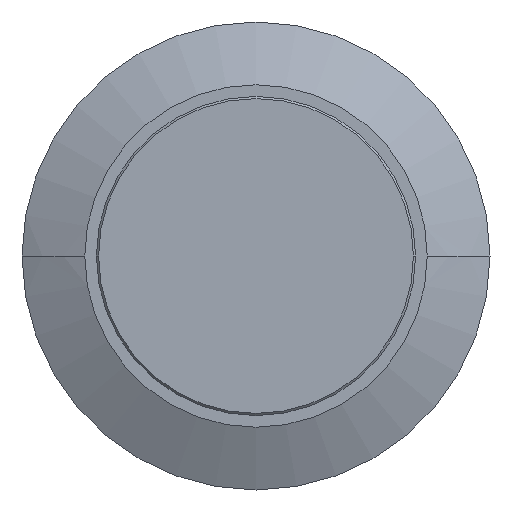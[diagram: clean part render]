
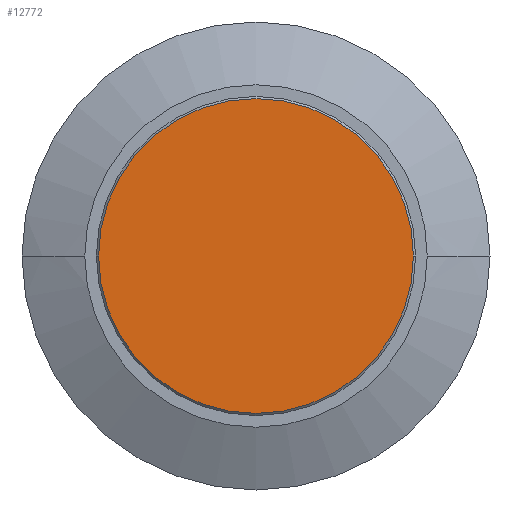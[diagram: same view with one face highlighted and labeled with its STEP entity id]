
A CAD part, left-side view. The second image highlights one B-rep face of the part: STEP entity #12772.
In plain terms, the highlighted planar face has unit normal (-1, 0, 0).
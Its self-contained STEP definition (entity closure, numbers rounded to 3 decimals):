
#12722=CARTESIAN_POINT('',(-0.63,0.,
0.));
#12723=DIRECTION('',(1.,0.,0.));
#12724=DIRECTION('',(0.,1.,0.));
#12725=AXIS2_PLACEMENT_3D('',#12722,#12723,#12724);
#12736=CARTESIAN_POINT('',(-0.63,0.,
0.));
#12737=DIRECTION('',(1.,0.,0.));
#12738=DIRECTION('',(0.,-1.,0.));
#12739=AXIS2_PLACEMENT_3D('',#12736,#12737,#12738);
#12757=CARTESIAN_POINT('',(-0.63,-7.4,0.));
#12758=CARTESIAN_POINT('',(-0.63,7.4,0.));
#12759=VERTEX_POINT('',#12757);
#12760=VERTEX_POINT('',#12758);
#12761=CARTESIAN_POINT('',(-0.63,0.,0.));
#12762=DIRECTION('',(1.,0.,0.));
#12763=DIRECTION('',(0.,-1.,0.));
#12764=AXIS2_PLACEMENT_3D('',#12761,#12762,#12763);
#12765=PLANE('',#12764);
#12767=ORIENTED_EDGE('',*,*,#12766,.T.);
#12769=ORIENTED_EDGE('',*,*,#12768,.T.);
#12770=EDGE_LOOP('',(#12767,#12769));
#12771=FACE_OUTER_BOUND('',#12770,.F.);
#12726=CIRCLE('',#12725,7.4);
#12740=CIRCLE('',#12739,7.4);
#12766=EDGE_CURVE('',#12759,#12760,#12740,.T.);
#12768=EDGE_CURVE('',#12760,#12759,#12726,.T.);
#12772=ADVANCED_FACE('',(#12771),#12765,.F.);
